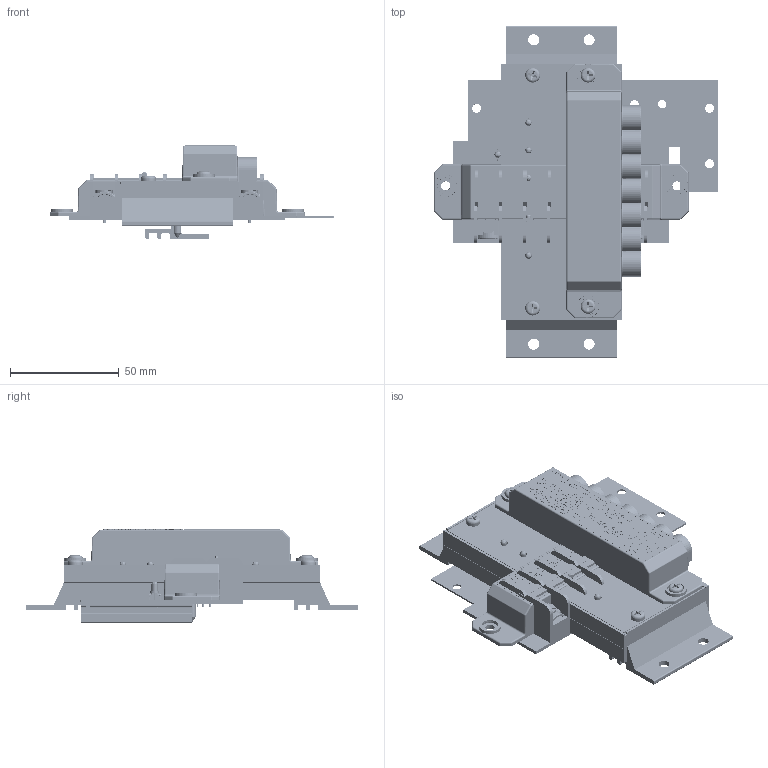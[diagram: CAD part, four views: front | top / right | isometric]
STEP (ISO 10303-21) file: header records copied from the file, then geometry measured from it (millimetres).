
FILE_DESCRIPTION( ( 'Unknown' ), '1' );
FILE_NAME( '//MORNINGSTAR/sdata/tech support/Products/SunSaver Gen 2/CAD/SSS_final.stp', 'Unknown', ( 'Unknown' ), ( 'Unknown' ), 'PSStep 13.0', 'Unknown', ' ' );
FILE_SCHEMA( ( 'AUTOMOTIVE_DESIGN { 1 0 10303 214 1 1 1 1 }' ) );
Length unit declared in the file: millimetre
Products named in the file (23): SSS-PCB_1.0; Assem1; SSS-PCB3.0; T1 LED_roundlegs_.22long; T1 LED_roundlegs_.22long-oa1; T1 LED_roundlegs_.22long-oa2; T1 Bi-color LED; RTS_.1pitch; 7Pos_SS_Terminal_Block; Spacer-4MMx8mmDIA; Spacer-4MMx4.8mmDIA; Spacer-4MMx4.8mmDIA-oa3; Spacer-4MMx4.8mmDIA-oa4; SSS-U_Channel; SSS-End_Cap; SSS-End_Cap-oa0; SSS-faceplate3.0; Screw - 0.300inx6-32thread; Screw - 0.300inx6-32thread-oa5; Jumper-SS_terminal; Screw - 0.400inx6-32thread; Screw - 0.400inx6-32thread-oa6; SSS-terminal_cover1.1
Bounding box: 130.26 x 152.32 x 42.78 mm (x, y, z)
Volume: 199898 mm3; surface area: 183819.9 mm2
Topology: 53 solids, 53 shells, 8824 faces, 22390 edges, 14714 vertices
Faces by surface type: plane 6882, extrusion 964, cylinder 690, bspline 204, torus 32, sphere 32, cone 20
Full cylindrical faces by diameter (mm): 0.254 x6, 0.508 x39, 0.762 x33, 1.27 x21, 2.87 x9, 2.997 x3, 3.175 x9, 3.505 x8, 3.81 x8, 4.064 x11, 5.08 x8, 5.461 x2, 6.756 x8, 7.874 x21
Entity records: 190367 total; most frequent: CARTESIAN_POINT 57759, ORIENTED_EDGE 21116, DIRECTION 18097, EDGE_CURVE 10558, VECTOR 9177, LINE 8695, VERTEX_POINT 7077, EDGE_LOOP 5019
